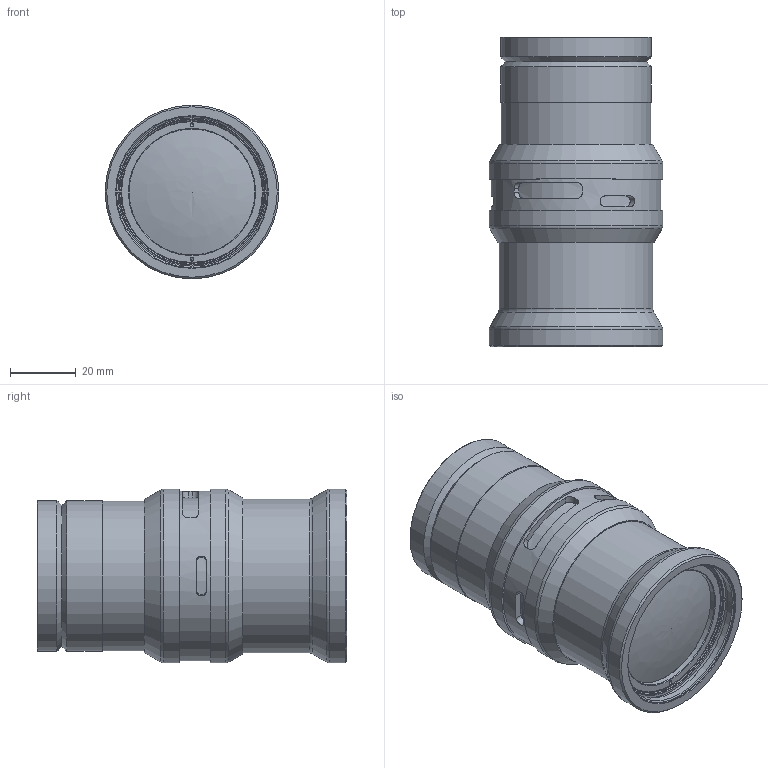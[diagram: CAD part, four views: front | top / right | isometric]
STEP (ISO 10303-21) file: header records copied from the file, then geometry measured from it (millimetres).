
FILE_DESCRIPTION(/* description */ (''),/* implementation_level */ '2;1');
FILE_NAME(/* name */ '0703-095-000-21',/* time_stamp */ '2011-05-26T13:21:15+02:00',/* author */ (''),/* organization */ (''),/* preprocessor_version */ 'ST-DEVELOPER v9',/* originating_system */ 'UGS - NX 4.0',/* authorisation */ '');
FILE_SCHEMA (('AUTOMOTIVE_DESIGN { 1 0 10303 214 1 1 1 1 }'));
Length unit declared in the file: millimetre
Products named in the file (1): schi6AFAsuk7
Bounding box: 53 x 94.5 x 53 mm (x, y, z)
Volume: 161999.2 mm3; surface area: 21215.2 mm2
Topology: 1 solids, 1 shells, 98 faces, 222 edges, 139 vertices
Faces by surface type: cylinder 42, cone 27, plane 23, torus 4, revolution 2
Full cylindrical faces by diameter (mm): 1.2 x2, 1.5 x2, 2.013 x1, 36 x2, 38.4 x1, 40.488 x1, 41.2 x1, 43.488 x1, 44.2 x1, 45.28 x1, 45.6 x1, 46 x2, 46.2 x3, 47 x1, 51.8 x1, 53 x3
Entity records: 3637 total; most frequent: CARTESIAN_POINT 1083, DIRECTION 392, ORIENTED_EDGE 280, AXIS2_PLACEMENT_3D 179, EDGE_LOOP 170, EDGE_CURVE 140, VERTEX_POINT 122, FACE_BOUND 106
